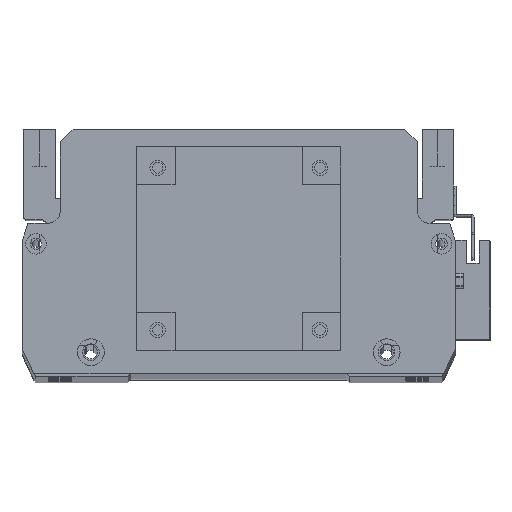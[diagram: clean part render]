
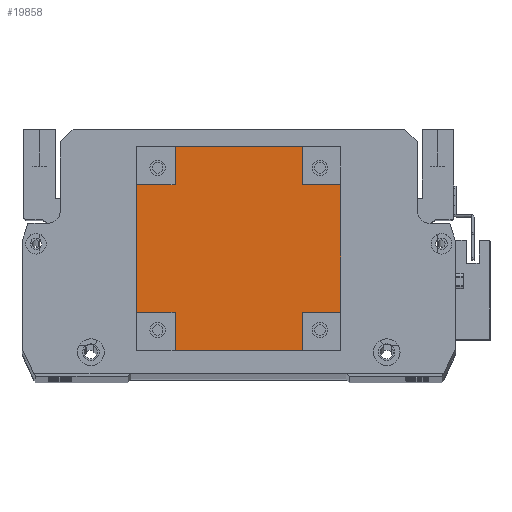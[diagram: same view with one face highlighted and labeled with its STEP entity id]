
A CAD part, top view. The second image highlights one B-rep face of the part: STEP entity #19858.
In plain terms, the highlighted planar face has unit normal (0, 0, 1).
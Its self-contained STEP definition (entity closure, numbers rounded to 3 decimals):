
#34 = CARTESIAN_POINT ( 'NONE',  ( 65., 80., 101.5 ) ) ;
#96 = EDGE_CURVE ( 'NONE', #14774, #15821, #9914, .T. ) ;
#103 = VECTOR ( 'NONE', #21653, 1000. ) ;
#740 = ORIENTED_EDGE ( 'NONE', *, *, #16836, .T. ) ;
#852 = CARTESIAN_POINT ( 'NONE',  ( 15., 65., 101.5 ) ) ;
#1137 = ORIENTED_EDGE ( 'NONE', *, *, #22103, .F. ) ;
#1697 = EDGE_CURVE ( 'NONE', #15821, #16060, #11121, .T. ) ;
#2108 = VERTEX_POINT ( 'NONE', #16148 ) ;
#2206 = LINE ( 'NONE', #10143, #14185 ) ;
#2534 = DIRECTION ( 'NONE',  ( 0., 0., -1. ) ) ;
#2692 = VECTOR ( 'NONE', #26962, 1000. ) ;
#2835 = CARTESIAN_POINT ( 'NONE',  ( 15., 15., 101.5 ) ) ;
#3254 = EDGE_CURVE ( 'NONE', #2108, #23857, #20139, .T. ) ;
#4343 = DIRECTION ( 'NONE',  ( 0., 1., 0. ) ) ;
#4346 = VECTOR ( 'NONE', #6774, 1000. ) ;
#4554 = VECTOR ( 'NONE', #17092, 1000. ) ;
#4871 = VECTOR ( 'NONE', #13666, 1000. ) ;
#4961 = CARTESIAN_POINT ( 'NONE',  ( 65., 0., 101.5 ) ) ;
#5166 = VECTOR ( 'NONE', #23024, 1000. ) ;
#5209 = LINE ( 'NONE', #21264, #4554 ) ;
#5629 = EDGE_CURVE ( 'NONE', #14774, #22198, #17091, .T. ) ;
#5805 = LINE ( 'NONE', #10452, #5166 ) ;
#5887 = VECTOR ( 'NONE', #13007, 1000. ) ;
#6157 = EDGE_CURVE ( 'NONE', #23857, #8273, #17718, .T. ) ;
#6223 = CARTESIAN_POINT ( 'NONE',  ( 15., 0., 101.5 ) ) ;
#6548 = LINE ( 'NONE', #34, #5887 ) ;
#6774 = DIRECTION ( 'NONE',  ( 0., 1., 0. ) ) ;
#8047 = CARTESIAN_POINT ( 'NONE',  ( 0., 65., 101.5 ) ) ;
#8223 = ORIENTED_EDGE ( 'NONE', *, *, #11750, .T. ) ;
#8273 = VERTEX_POINT ( 'NONE', #11268 ) ;
#8554 = VERTEX_POINT ( 'NONE', #26883 ) ;
#9304 = VERTEX_POINT ( 'NONE', #10573 ) ;
#9557 = ORIENTED_EDGE ( 'NONE', *, *, #1697, .F. ) ;
#9914 = LINE ( 'NONE', #6223, #4346 ) ;
#10143 = CARTESIAN_POINT ( 'NONE',  ( 0., 0., 101.5 ) ) ;
#10226 = ORIENTED_EDGE ( 'NONE', *, *, #3254, .F. ) ;
#10405 = LINE ( 'NONE', #21986, #4871 ) ;
#10415 = ORIENTED_EDGE ( 'NONE', *, *, #5629, .T. ) ;
#10452 = CARTESIAN_POINT ( 'NONE',  ( 65., 65., 101.5 ) ) ;
#10573 = CARTESIAN_POINT ( 'NONE',  ( 80., 65., 101.5 ) ) ;
#10675 = ORIENTED_EDGE ( 'NONE', *, *, #6157, .F. ) ;
#11121 = LINE ( 'NONE', #24609, #22279 ) ;
#11268 = CARTESIAN_POINT ( 'NONE',  ( 15., 80., 101.5 ) ) ;
#11339 = ORIENTED_EDGE ( 'NONE', *, *, #96, .F. ) ;
#11750 = EDGE_CURVE ( 'NONE', #14349, #8273, #5209, .T. ) ;
#12393 = VERTEX_POINT ( 'NONE', #14693 ) ;
#12795 = VECTOR ( 'NONE', #26380, 1000. ) ;
#13007 = DIRECTION ( 'NONE',  ( 0., -1., 0. ) ) ;
#13650 = CARTESIAN_POINT ( 'NONE',  ( 65., 0., 101.5 ) ) ;
#13666 = DIRECTION ( 'NONE',  ( -1., 0., 0. ) ) ;
#14185 = VECTOR ( 'NONE', #14363, 1000. ) ;
#14349 = VERTEX_POINT ( 'NONE', #14514 ) ;
#14360 = CARTESIAN_POINT ( 'NONE',  ( 0., 0., 101.5 ) ) ;
#14363 = DIRECTION ( 'NONE',  ( 0., -1., 0. ) ) ;
#14430 = ORIENTED_EDGE ( 'NONE', *, *, #24951, .F. ) ;
#14514 = CARTESIAN_POINT ( 'NONE',  ( 65., 80., 101.5 ) ) ;
#14693 = CARTESIAN_POINT ( 'NONE',  ( 80., 15., 101.5 ) ) ;
#14774 = VERTEX_POINT ( 'NONE', #27243 ) ;
#14800 = CARTESIAN_POINT ( 'NONE',  ( 65., 15., 101.5 ) ) ;
#15203 = CARTESIAN_POINT ( 'NONE',  ( 0., 0., 101.5 ) ) ;
#15821 = VERTEX_POINT ( 'NONE', #2835 ) ;
#15945 = ORIENTED_EDGE ( 'NONE', *, *, #26374, .F. ) ;
#16060 = VERTEX_POINT ( 'NONE', #24588 ) ;
#16148 = CARTESIAN_POINT ( 'NONE',  ( 0., 65., 101.5 ) ) ;
#16312 = VECTOR ( 'NONE', #4343, 1000. ) ;
#16836 = EDGE_CURVE ( 'NONE', #2108, #16060, #2206, .T. ) ;
#16964 = LINE ( 'NONE', #18984, #16312 ) ;
#17091 = LINE ( 'NONE', #14360, #22681 ) ;
#17092 = DIRECTION ( 'NONE',  ( -1., 0., 0. ) ) ;
#17334 = DIRECTION ( 'NONE',  ( -1., 0., 0. ) ) ;
#17718 = LINE ( 'NONE', #24217, #12795 ) ;
#18984 = CARTESIAN_POINT ( 'NONE',  ( 80., 0., 101.5 ) ) ;
#19086 = FACE_OUTER_BOUND ( 'NONE', #27112, .T. ) ;
#19325 = PLANE ( 'NONE',  #23229 ) ;
#19858 = ADVANCED_FACE ( 'NONE', ( #19086 ), #19325, .F. ) ;
#20139 = LINE ( 'NONE', #8047, #2692 ) ;
#21264 = CARTESIAN_POINT ( 'NONE',  ( 0., 80., 101.5 ) ) ;
#21653 = DIRECTION ( 'NONE',  ( 0., -1., 0. ) ) ;
#21986 = CARTESIAN_POINT ( 'NONE',  ( 80., 15., 101.5 ) ) ;
#22103 = EDGE_CURVE ( 'NONE', #14349, #8554, #6548, .T. ) ;
#22198 = VERTEX_POINT ( 'NONE', #13650 ) ;
#22227 = ORIENTED_EDGE ( 'NONE', *, *, #23015, .T. ) ;
#22279 = VECTOR ( 'NONE', #24576, 1000. ) ;
#22681 = VECTOR ( 'NONE', #26943, 1000. ) ;
#23015 = EDGE_CURVE ( 'NONE', #12393, #9304, #16964, .T. ) ;
#23024 = DIRECTION ( 'NONE',  ( 1., 0., 0. ) ) ;
#23229 = AXIS2_PLACEMENT_3D ( 'NONE', #15203, #2534, #17334 ) ;
#23517 = EDGE_CURVE ( 'NONE', #8554, #9304, #5805, .T. ) ;
#23857 = VERTEX_POINT ( 'NONE', #852 ) ;
#24178 = VERTEX_POINT ( 'NONE', #14800 ) ;
#24217 = CARTESIAN_POINT ( 'NONE',  ( 15., 80., 101.5 ) ) ;
#24576 = DIRECTION ( 'NONE',  ( -1., 0., 0. ) ) ;
#24588 = CARTESIAN_POINT ( 'NONE',  ( 0., 15., 101.5 ) ) ;
#24609 = CARTESIAN_POINT ( 'NONE',  ( 0., 15., 101.5 ) ) ;
#24951 = EDGE_CURVE ( 'NONE', #12393, #24178, #10405, .T. ) ;
#26374 = EDGE_CURVE ( 'NONE', #24178, #22198, #27132, .T. ) ;
#26380 = DIRECTION ( 'NONE',  ( 0., 1., 0. ) ) ;
#26883 = CARTESIAN_POINT ( 'NONE',  ( 65., 65., 101.5 ) ) ;
#26943 = DIRECTION ( 'NONE',  ( 1., 0., 0. ) ) ;
#26962 = DIRECTION ( 'NONE',  ( 1., 0., 0. ) ) ;
#27001 = ORIENTED_EDGE ( 'NONE', *, *, #23517, .F. ) ;
#27112 = EDGE_LOOP ( 'NONE', ( #8223, #10675, #10226, #740, #9557, #11339, #10415, #15945, #14430, #22227, #27001, #1137 ) ) ;
#27132 = LINE ( 'NONE', #4961, #103 ) ;
#27243 = CARTESIAN_POINT ( 'NONE',  ( 15., 0., 101.5 ) ) ;
